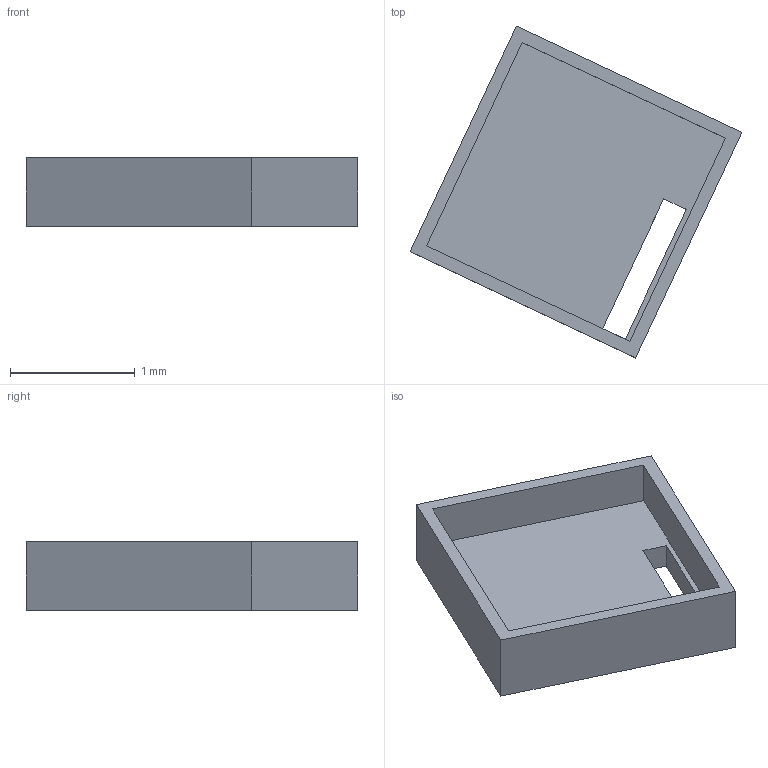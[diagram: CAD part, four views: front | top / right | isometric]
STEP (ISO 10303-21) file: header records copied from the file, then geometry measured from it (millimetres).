
FILE_DESCRIPTION(('FreeCAD Model'),'2;1');
FILE_NAME('Open CASCADE Shape Model','2026-10-23T21:15:57',('FreeCAD'),( 'FreeCAD'),'Open CASCADE STEP processor 7.8','FreeCAD','Unknown');
FILE_SCHEMA(('AUTOMOTIVE_DESIGN { 1 0 10303 214 1 1 1 1 }'));
Length unit declared in the file: millimetre
Products named in the file (1): Open CASCADE STEP translator 7.8 19
Bounding box: 2.66 x 2.66 x 0.55 mm (x, y, z)
Volume: 1 mm3; surface area: 15 mm2
Topology: 1 solids, 1 shells, 14 faces, 36 edges, 24 vertices
Faces by surface type: plane 14
Entity records: 434 total; most frequent: CARTESIAN_POINT 75, ORIENTED_EDGE 72, DIRECTION 66, EDGE_CURVE 36, LINE 36, VECTOR 36, VERTEX_POINT 24, FACE_BOUND 16
